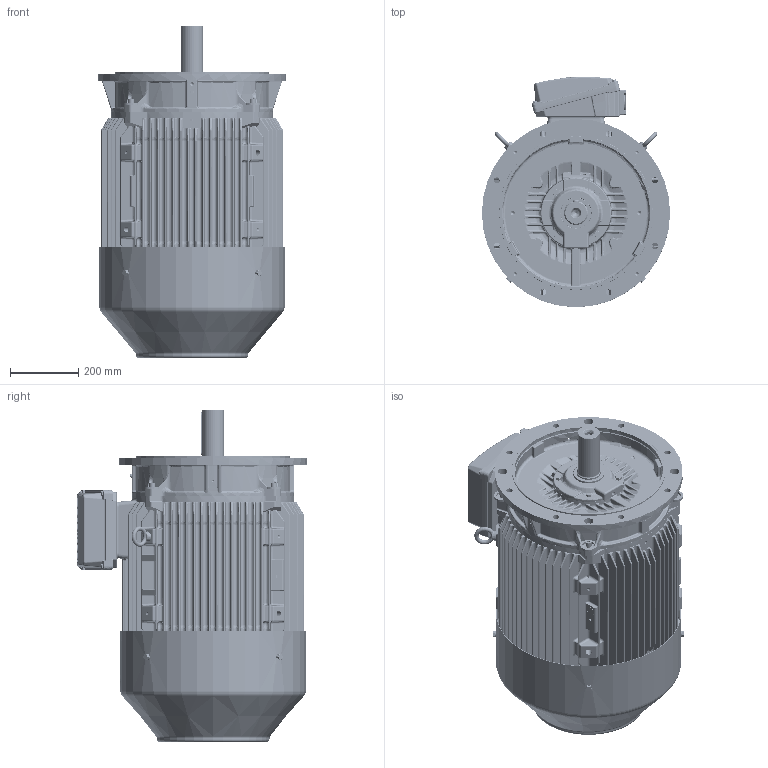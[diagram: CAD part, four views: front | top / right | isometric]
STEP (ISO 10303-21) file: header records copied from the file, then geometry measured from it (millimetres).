
FILE_DESCRIPTION (( 'STEP AP203' ), '1' );
FILE_NAME ('0225000396_RevA.STEP', '2023-04-26T04:43:51', ( '' ), ( '' ), 'SwSTEP 2.0', 'SolidWorks 2021', '' );
FILE_SCHEMA (( 'CONFIG_CONTROL_DESIGN' ));
Length unit declared in the file: inch
Products named in the file (1): 0225000396_RevA
Bounding box: 550 x 673.06 x 970.42 mm (x, y, z)
Volume: 18869235.7 mm3; surface area: 6850828.2 mm2
Topology: 68 solids, 70 shells, 14025 faces, 34889 edges, 20730 vertices
Faces by surface type: cylinder 4283, bspline 4241, plane 2414, torus 1531, cone 1256, sphere 300
Entity records: 577210 total; most frequent: CARTESIAN_POINT 275398, ORIENTED_EDGE 68852, DIRECTION 57559, EDGE_CURVE 34426, AXIS2_PLACEMENT_3D 24080, VERTEX_POINT 20678, EDGE_LOOP 15108, CIRCLE 14293
